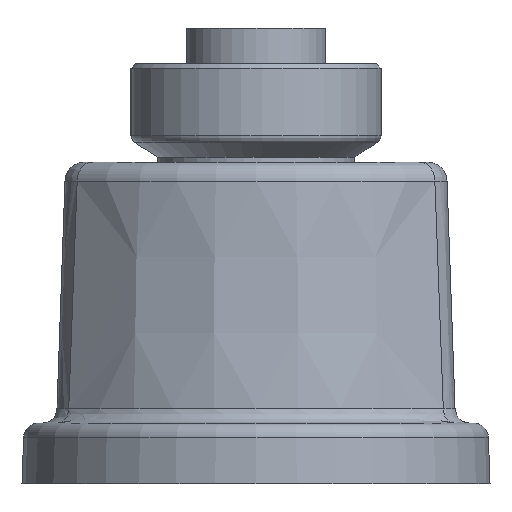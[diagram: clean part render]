
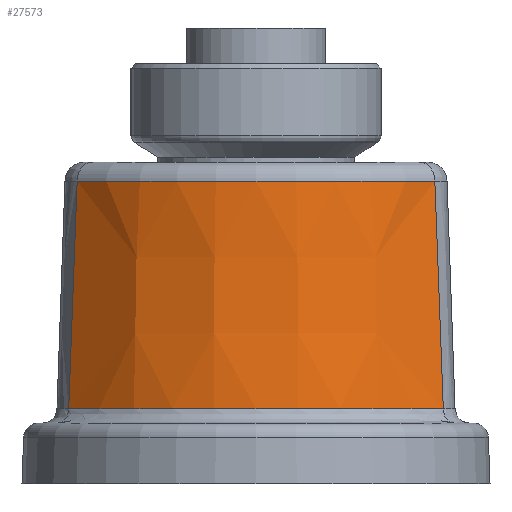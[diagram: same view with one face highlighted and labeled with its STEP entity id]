
A CAD part, front view. The second image highlights one B-rep face of the part: STEP entity #27573.
In plain terms, the highlighted conical face has half-angle 2 degrees and reference radius 25 mm.
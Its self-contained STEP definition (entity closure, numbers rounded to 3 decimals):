
#26572=CARTESIAN_POINT('',(-19.01,-39.279,-8.717));
#26573=VERTEX_POINT('',#26572);
#26681=CARTESIAN_POINT('',(19.01,-39.279,-8.717));
#26682=VERTEX_POINT('',#26681);
#26742=CARTESIAN_POINT('',(0.,-23.12,-8.717));
#26743=DIRECTION('',(0.0,0.0,-1.0));
#26744=DIRECTION('',(0.0,-1.0,0.0));
#26745=AXIS2_PLACEMENT_3D('',#26742,#26743,#26744);
#26746=CIRCLE('',#26745,24.949);
#26747=EDGE_CURVE('',#26682,#26573,#26746,.T.);
#26783=CARTESIAN_POINT('',(18.152,-39.036,14.406));
#26784=VERTEX_POINT('',#26783);
#26796=CARTESIAN_POINT('',(18.152,-39.036,14.406));
#26797=CARTESIAN_POINT('',(18.439,-39.118,6.698));
#26798=CARTESIAN_POINT('',(18.725,-39.199,-1.009));
#26799=CARTESIAN_POINT('',(19.01,-39.279,-8.717));
#26800=B_SPLINE_CURVE_WITH_KNOTS('',3,(#26796,#26797,#26798,#26799),.UNSPECIFIED.,.F.,.U.,(4,4),(-29.59,-6.452),.UNSPECIFIED.);
#26801=EDGE_CURVE('',#26784,#26682,#26800,.T.);
#27181=CARTESIAN_POINT('',(-18.152,-39.036,14.406));
#27182=VERTEX_POINT('',#27181);
#27190=CARTESIAN_POINT('',(0.,-23.12,14.406));
#27191=DIRECTION('',(0.0,0.0,1.0));
#27192=DIRECTION('',(0.0,-1.0,0.0));
#27193=AXIS2_PLACEMENT_3D('',#27190,#27191,#27192);
#27194=CIRCLE('',#27193,24.142);
#27195=EDGE_CURVE('',#27182,#26784,#27194,.T.);
#27544=CARTESIAN_POINT('',(-19.01,-39.279,-8.717));
#27545=CARTESIAN_POINT('',(-18.725,-39.199,-1.009));
#27546=CARTESIAN_POINT('',(-18.439,-39.118,6.698));
#27547=CARTESIAN_POINT('',(-18.152,-39.036,14.406));
#27548=B_SPLINE_CURVE_WITH_KNOTS('',3,(#27544,#27545,#27546,#27547),.UNSPECIFIED.,.F.,.U.,(4,4),(6.452,29.59),.UNSPECIFIED.);
#27549=EDGE_CURVE('',#26573,#27182,#27548,.T.);
#27562=CARTESIAN_POINT('',(0.,-23.12,-10.164));
#27563=DIRECTION('',(0.0,0.0,-1.0));
#27564=DIRECTION('',(1.0,0.0,0.0));
#27565=AXIS2_PLACEMENT_3D('',#27562,#27563,#27564);
#27566=CONICAL_SURFACE('',#27565,25.0,2.);
#27567=ORIENTED_EDGE('',*,*,#26747,.F.);
#27568=ORIENTED_EDGE('',*,*,#26801,.F.);
#27569=ORIENTED_EDGE('',*,*,#27195,.F.);
#27570=ORIENTED_EDGE('',*,*,#27549,.F.);
#27571=EDGE_LOOP('',(#27567,#27568,#27569,#27570));
#27572=FACE_OUTER_BOUND('',#27571,.T.);
#27573=ADVANCED_FACE('',(#27572),#27566,.T.);
